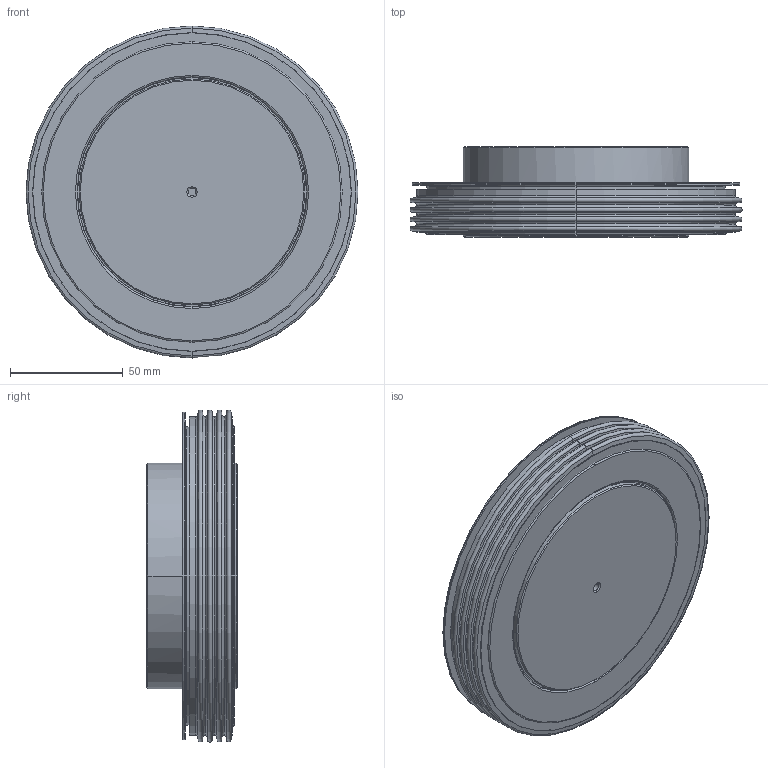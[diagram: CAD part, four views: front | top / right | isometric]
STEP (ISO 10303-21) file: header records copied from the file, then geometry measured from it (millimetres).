
FILE_DESCRIPTION (( 'STEP AP214' ), '1' );
FILE_NAME ('PTO95.STEP', '2021-08-20T05:23:52', ( '' ), ( '' ), 'SwSTEP 2.0', 'SolidWorks 2018', '' );
FILE_SCHEMA (( 'AUTOMOTIVE_DESIGN' ));
Length unit declared in the file: millimetre
Products named in the file (1): PTO95
Bounding box: 146.99 x 40 x 146.99 mm (x, y, z)
Volume: 370837.8 mm3; surface area: 101341.4 mm2
Topology: 5 solids, 5 shells, 134 faces, 274 edges, 159 vertices
Faces by surface type: torus 48, cylinder 40, plane 23, cone 23
Entity records: 5115 total; most frequent: DIRECTION 741, CARTESIAN_POINT 580, ORIENTED_EDGE 548, AXIS2_PLACEMENT_3D 336, EDGE_CURVE 274, CIRCLE 201, VERTEX_POINT 159, EDGE_LOOP 151
